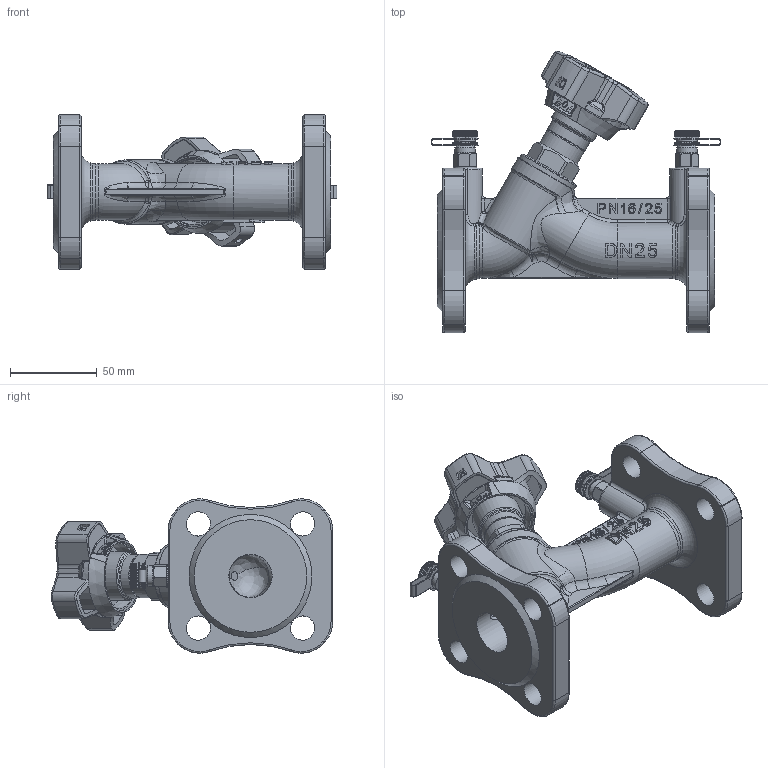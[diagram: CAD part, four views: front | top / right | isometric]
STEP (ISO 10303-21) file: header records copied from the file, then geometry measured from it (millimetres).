
FILE_DESCRIPTION(/* description */ ('STEP AP203'),/* implementation_level */ '2;1');
FILE_NAME(/* name */ 'RSV55 DN25.stp',/* time_stamp */ '2024-09-17T14:52:55+07:00',/* author */ ('Eva'),/* organization */ (''),/* preprocessor_version */ 'ST-DEVELOPER v20',/* originating_system */ 'Autodesk Inventor 2025',/* authorisation */ '');
FILE_SCHEMA (('AUTOMOTIVE_DESIGN { 1 0 10303 214 3 1 1 }'));
Products named in the file (25): CM003002500  丹弗斯; CM003002501 丹弗斯; 25借用; 25借用.STEP; 20503-20-00-z.STEP; 20503-25-00-z.asm.STEP; tjf-22-sl-01-a.asm.STEP; tjf-22-sl-01-a.prt.STEP; tjf-22-sl-02-a.prt.STEP; tjf-22-sl-03-a.prt.STEP; tjf-22-sl-05-a.prt.STEP; tjf-22-sl-04-a.prt.STEP; 20503-25-02-z.prt.STEP; 20503-25-04-z.prt.STEP; 20503-25-03-z.prt.STEP; 20503-25-04-z1.prt.STEP; 20503-15-50-04-z1.prt.STEP; 20501-32-07-a.prt.STEP; 取压咀; 取压咀帽; 取压咀主体-30; 膨胀体; 橡胶扣; O 型圈; O 型圈 8x1
Assembly tree (25 placements, depth 7):
  CM003002500  丹弗斯
    CM003002501 丹弗斯
    25借用
      25借用.STEP
        20503-20-00-z.STEP
          20503-25-00-z.asm.STEP
            tjf-22-sl-01-a.asm.STEP
              tjf-22-sl-01-a.prt.STEP
              tjf-22-sl-02-a.prt.STEP
              tjf-22-sl-03-a.prt.STEP
              tjf-22-sl-05-a.prt.STEP
              tjf-22-sl-04-a.prt.STEP
            20503-25-02-z.prt.STEP
            20503-25-04-z.prt.STEP
            20503-25-03-z.prt.STEP
            20503-25-04-z1.prt.STEP
            20503-15-50-04-z1.prt.STEP
            20501-32-07-a.prt.STEP
    取压咀  x2
      取压咀帽
      取压咀主体-30
      膨胀体
      橡胶扣
      O 型圈
      O 型圈 8x1
Bounding box: 167.2 x 162.5 x 89.1 mm (x, y, z)
Volume: 361453.5 mm3; surface area: 140643.3 mm2
Topology: 24 solids, 27 shells, 3759 faces, 10434 edges, 6870 vertices
Faces by surface type: plane 1721, cylinder 773, bspline 725, cone 308, torus 202, sphere 30
Full cylindrical faces by diameter (mm): 1.5 x4, 3.1 x1, 5 x2, 5.2 x1, 5.5 x1, 5.9 x1, 6 x34, 7 x12, 7.2 x1, 7.8 x3, 7.9 x2, 8 x4, 8.1 x1, 8.9 x10, 8.917 x8, 9 x2, 9.983 x6, 10 x17, 10.5 x2, 11 x2, 11.5 x12, 11.7 x4, 12 x1, 12.2 x1, 12.3 x1, 12.5 x18, 13.5 x8, 14 x15, 15 x1, 17.3 x1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
Entity records: 170010 total; most frequent: CARTESIAN_POINT 90087, ORIENTED_EDGE 17797, DIRECTION 15088, EDGE_CURVE 8903, VERTEX_POINT 5877, AXIS2_PLACEMENT_3D 5381, LINE 4326, VECTOR 4326
